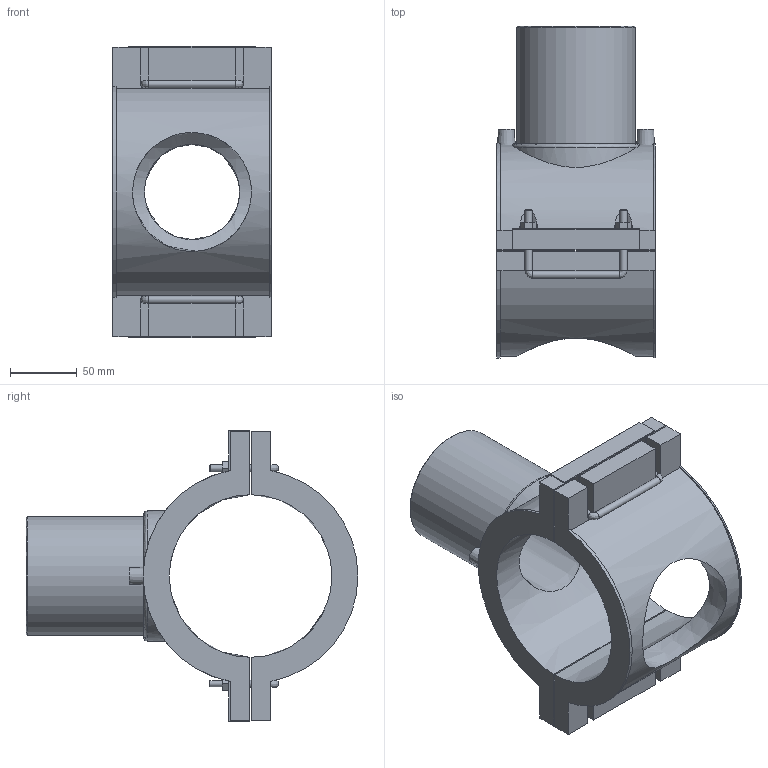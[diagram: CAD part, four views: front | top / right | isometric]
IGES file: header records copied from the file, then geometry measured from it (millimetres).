
Global section: file name: 5958DB03040030.ipt; native system: Autodesk Inventor 2019; preprocessor: unknown; author: KIM; date: 20210830.101315; units: inch
Bounding box: 118.11 x 247.74 x 217.9 mm (x, y, z)
Volume: 1169473.3 mm3; surface area: 220703.8 mm2
Topology: 4 solids, 4 shells, 175 faces, 453 edges, 298 vertices
Faces by surface type: plane 118, revolution 29, cylinder 23, cone 5
Full cylindrical faces by diameter (mm): 4 x2, 4.2 x2, 5.4 x6, 88.7 x1
